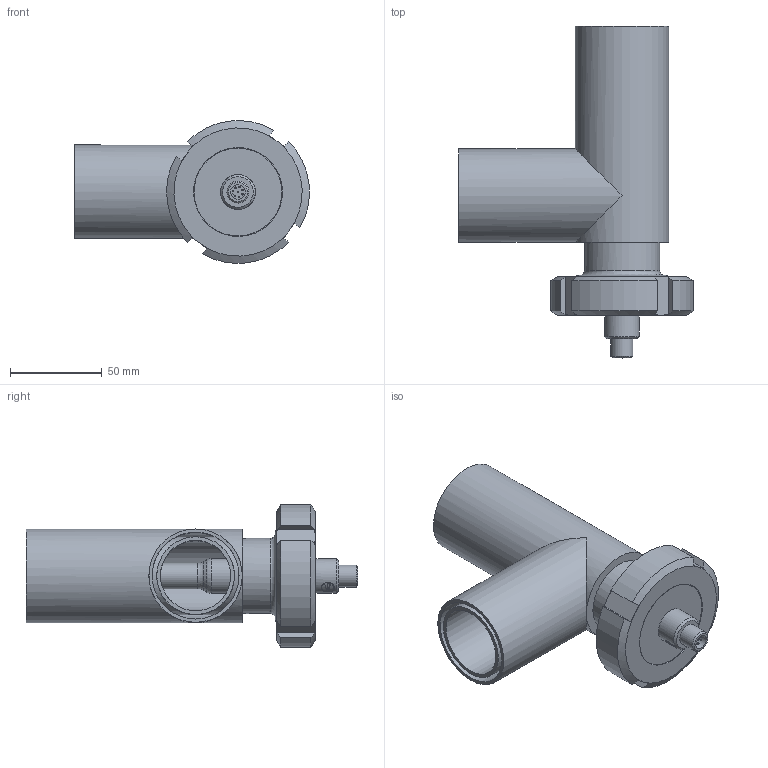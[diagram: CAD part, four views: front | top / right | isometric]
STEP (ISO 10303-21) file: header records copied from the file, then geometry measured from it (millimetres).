
FILE_DESCRIPTION(/* description */ ('Unknown'),/* implementation_level */ '2;1');
FILE_NAME(/* name */ 'SRD-SLP-A117-BH40_Jacketed-Elbow-DN40',/* time_stamp */ '2023-10-26T16:20:47-05:00',/* author */ ('Unknown'),/* organization */ ('Unknown'),/* preprocessor_version */ 'ST-DEVELOPER v16.7',/* originating_system */ 'Solid Edge',/* authorisation */ 'Unknown');
FILE_SCHEMA (('AUTOMOTIVE_DESIGN {1 0 10303 214 3 1 1}'));
Length unit declared in the file: millimetre
Products named in the file (5): SRD-SLP-A117-BH40_Jacketed-Elbow-DN40; SRD-SLP-A117-BH40; BH40-Nut; BH40-Seal; BH40-Jacketed-Elbow
Assembly tree (4 placements, depth 2):
  SRD-SLP-A117-BH40_Jacketed-Elbow-DN40
    SRD-SLP-A117-BH40
    BH40-Nut
    BH40-Seal
    BH40-Jacketed-Elbow
Bounding box: 128.23 x 181.11 x 77.96 mm (x, y, z)
Volume: 209773.2 mm3; surface area: 145176.9 mm2
Topology: 4 solids, 4 shells, 268 faces, 666 edges, 430 vertices
Faces by surface type: bspline 92, cylinder 66, plane 60, cone 28, torus 14, sphere 8
Full cylindrical faces by diameter (mm): 0.8 x8, 5.019 x1, 8 x1, 12 x1, 13.9 x1, 19 x2, 38.4 x2, 38.5 x1, 41 x1, 42 x2, 42.4 x2, 47.4 x2, 48 x1, 48.5 x1, 50.951 x2, 51.8 x1, 52 x1, 61.19 x1, 65 x1, 66 x1
Entity records: 13072 total; most frequent: CARTESIAN_POINT 6065, ORIENTED_EDGE 1114, DIRECTION 869, EDGE_CURVE 557, VERTEX_POINT 390, EDGE_LOOP 371, FACE_BOUND 371, AXIS2_PLACEMENT_3D 359
